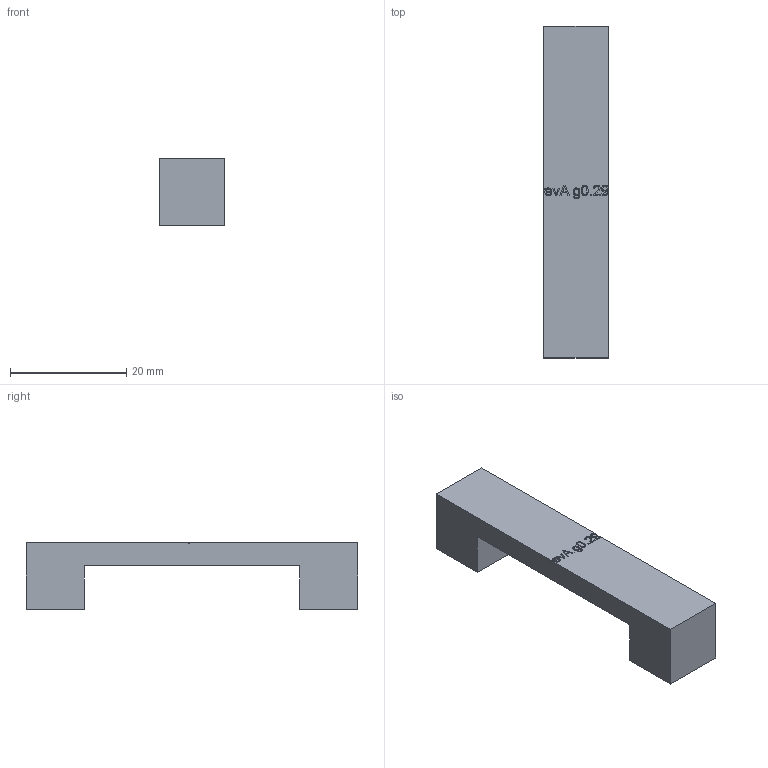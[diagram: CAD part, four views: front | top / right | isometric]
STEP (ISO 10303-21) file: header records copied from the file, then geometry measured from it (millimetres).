
FILE_DESCRIPTION(('Open CASCADE Model'),'2;1');
FILE_NAME('Open CASCADE Shape Model','2026-07-24T14:41:33',('Author'),( 'Open CASCADE'),'Open CASCADE STEP processor 7.9','build123d', 'Unknown');
FILE_SCHEMA(('AUTOMOTIVE_DESIGN { 1 0 10303 214 1 1 1 1 }'));
Length unit declared in the file: millimetre
Products named in the file (2): =>[0:1:1:2]; COMPOUND
Assembly tree (1 placements, depth 2):
  =>[0:1:1:2]
    COMPOUND
Bounding box: 11 x 57 x 11.5 mm (x, y, z)
Volume: 4060.3 mm3; surface area: 2552.5 mm2
Topology: 1 solids, 1 shells, 176 faces, 480 edges, 320 vertices
Faces by surface type: extrusion 113, plane 61, cylinder 2
Full cylindrical faces by diameter (mm): 3.5 x2
Entity records: 13650 total; most frequent: CARTESIAN_POINT 5174, DIRECTION 1036, ORIENTED_EDGE 960, PCURVE 960, DEFINITIONAL_REPRESENTATION 960, VECTOR 894, LINE 781, B_SPLINE_CURVE_WITH_KNOTS 764
